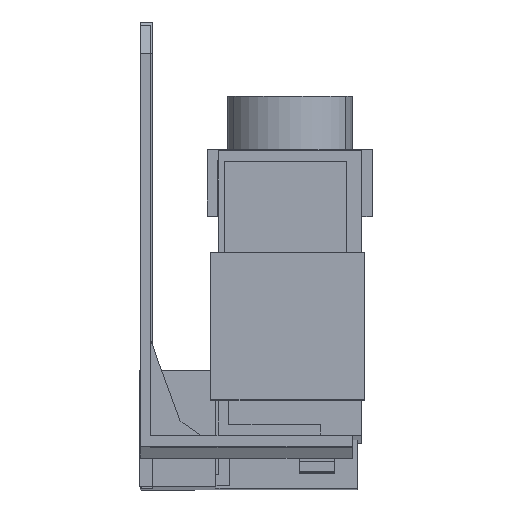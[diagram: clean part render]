
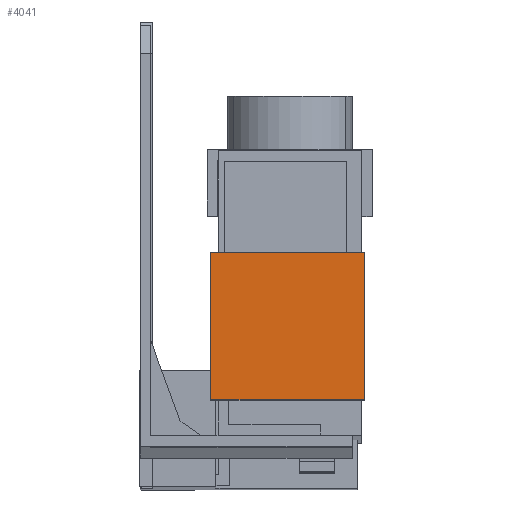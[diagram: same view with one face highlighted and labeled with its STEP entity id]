
A CAD part, front view. The second image highlights one B-rep face of the part: STEP entity #4041.
In plain terms, the highlighted planar face has unit normal (0, -1, 0.003).
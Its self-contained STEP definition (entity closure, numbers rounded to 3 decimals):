
#47 = EDGE_CURVE ( 'NONE', #7594, #7607, #4520, .T. ) ;
#164 = EDGE_CURVE ( 'NONE', #7594, #7449, #4727, .T. ) ;
#460 = EDGE_CURVE ( 'NONE', #7609, #7607, #5255, .T. ) ;
#612 = AXIS2_PLACEMENT_3D ( 'NONE', #6399, #6405, #6406 ) ;
#702 = EDGE_CURVE ( 'NONE', #7449, #7609, #5458, .T. ) ;
#1160 = CARTESIAN_POINT ( 'NONE',  ( 31.95, -31.452, -19.316 ) ) ;
#1674 = CARTESIAN_POINT ( 'NONE',  ( 9.3, -31.452, -19.316 ) ) ;
#1675 = DIRECTION ( 'NONE',  ( 1., 0., 0. ) ) ;
#1857 = DIRECTION ( 'NONE',  ( 0., -0.003, -1. ) ) ;
#2153 = ORIENTED_EDGE ( 'NONE', *, *, #702, .F. ) ;
#2154 = ORIENTED_EDGE ( 'NONE', *, *, #164, .F. ) ;
#2155 = ORIENTED_EDGE ( 'NONE', *, *, #47, .T. ) ;
#2156 = ORIENTED_EDGE ( 'NONE', *, *, #460, .F. ) ;
#3359 = CARTESIAN_POINT ( 'NONE',  ( 10.05, -31.509, -40.315 ) ) ;
#3360 = DIRECTION ( 'NONE',  ( 0., 0.003, 1. ) ) ;
#3677 = DIRECTION ( 'NONE',  ( 1., 0., 0. ) ) ;
#3699 = CARTESIAN_POINT ( 'NONE',  ( 9.3, -31.509, -40.315 ) ) ;
#4041 = ADVANCED_FACE ( 'NONE', ( #5823 ), #6396, .T. ) ;
#4343 = EDGE_LOOP ( 'NONE', ( #2153, #2154, #2155, #2156 ) ) ;
#4517 = VECTOR ( 'NONE', #3677, 1000. ) ;
#4520 = LINE ( 'NONE', #3699, #4517 ) ;
#4727 = LINE ( 'NONE', #3359, #4728 ) ;
#4728 = VECTOR ( 'NONE', #3360, 1000. ) ;
#5234 = VECTOR ( 'NONE', #1857, 1000. ) ;
#5255 = LINE ( 'NONE', #1160, #5234 ) ;
#5458 = LINE ( 'NONE', #1674, #5459 ) ;
#5459 = VECTOR ( 'NONE', #1675, 1000. ) ;
#5823 = FACE_OUTER_BOUND ( 'NONE', #4343, .T. ) ;
#6396 = PLANE ( 'NONE',  #612 ) ;
#6399 = CARTESIAN_POINT ( 'NONE',  ( 9.3, -31.509, -40.315 ) ) ;
#6405 = DIRECTION ( 'NONE',  ( 0., -1., 0.003 ) ) ;
#6406 = DIRECTION ( 'NONE',  ( -1., 0., 0. ) ) ;
#6991 = CARTESIAN_POINT ( 'NONE',  ( 10.05, -31.452, -19.316 ) ) ;
#7135 = CARTESIAN_POINT ( 'NONE',  ( 10.05, -31.509, -40.315 ) ) ;
#7148 = CARTESIAN_POINT ( 'NONE',  ( 31.95, -31.509, -40.315 ) ) ;
#7149 = CARTESIAN_POINT ( 'NONE',  ( 31.95, -31.452, -19.316 ) ) ;
#7449 = VERTEX_POINT ( 'NONE', #6991 ) ;
#7594 = VERTEX_POINT ( 'NONE', #7135 ) ;
#7607 = VERTEX_POINT ( 'NONE', #7148 ) ;
#7609 = VERTEX_POINT ( 'NONE', #7149 ) ;
